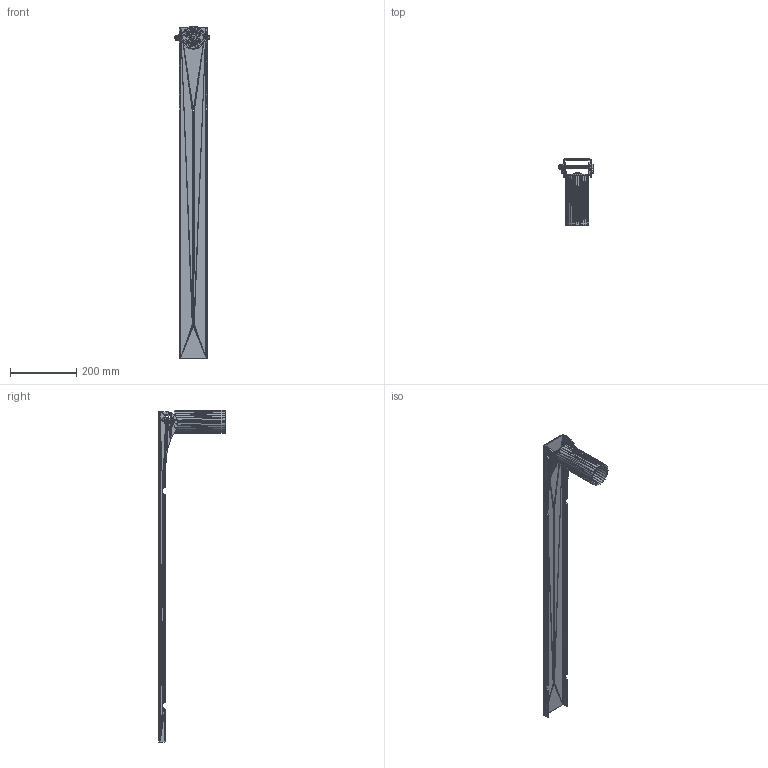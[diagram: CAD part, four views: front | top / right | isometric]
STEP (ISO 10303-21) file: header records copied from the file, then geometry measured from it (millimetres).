
FILE_DESCRIPTION((''),'2;1');
FILE_NAME('051082', '2026-02-10T09:27:52', (''), (''), 'ImageToStl.com STEP Converter','', '');
FILE_SCHEMA(('AUTOMOTIVE_DESIGN_CC2'));
Length unit declared in the file: metre
Products named in the file (1): product0
Bounding box: 104.7 x 200 x 1005 mm (x, y, z)
Surface area: 336028.9 mm2 (no closed solid volume)
Topology: 0 solids, 9490 shells, 9490 faces, 28470 edges, 4725 vertices
Faces by surface type: plane 9490
Entity records: 218258 total; most frequent: DIRECTION 47452, ORIENTED_EDGE 28470, EDGE_CURVE 28470, LINE 28470, VECTOR 28470, AXIS2_PLACEMENT_3D 9491, FACE_SURFACE 9490, PLANE 9490
